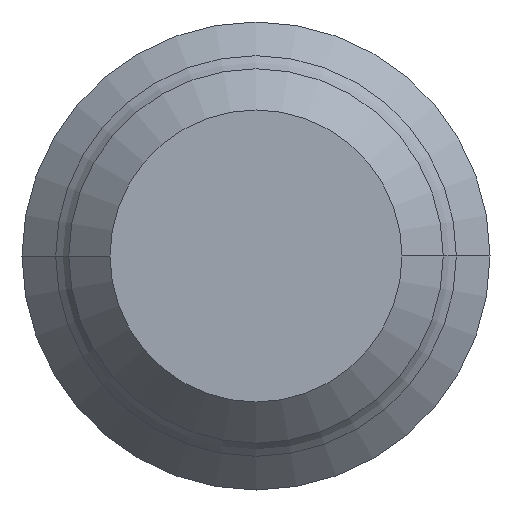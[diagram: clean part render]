
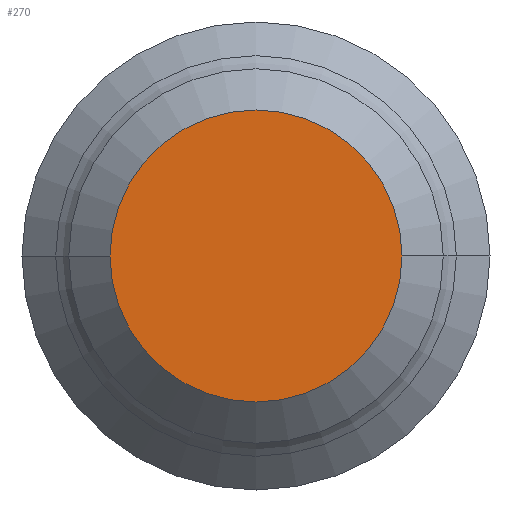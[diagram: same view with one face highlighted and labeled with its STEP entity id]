
A CAD part, left-side view. The second image highlights one B-rep face of the part: STEP entity #270.
In plain terms, the highlighted planar face has unit normal (-1, 0, 0).
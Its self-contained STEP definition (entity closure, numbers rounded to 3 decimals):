
#2 = CIRCLE ( 'NONE', #482, 4.953 ) ;
#3 = CARTESIAN_POINT ( 'NONE',  ( -45.263, 4.953, 0. ) ) ;
#10 = EDGE_CURVE ( 'NONE', #152, #380, #137, .T. ) ;
#137 = CIRCLE ( 'NONE', #542, 4.953 ) ;
#152 = VERTEX_POINT ( 'NONE', #267 ) ;
#197 = FACE_OUTER_BOUND ( 'NONE', #474, .T. ) ;
#222 = AXIS2_PLACEMENT_3D ( 'NONE', #554, #397, #428 ) ;
#267 = CARTESIAN_POINT ( 'NONE',  ( -45.263, -4.953, 0. ) ) ;
#270 = ADVANCED_FACE ( 'NONE', ( #197 ), #286, .F. ) ;
#286 = PLANE ( 'NONE',  #222 ) ;
#358 = ORIENTED_EDGE ( 'NONE', *, *, #515, .F. ) ;
#380 = VERTEX_POINT ( 'NONE', #3 ) ;
#382 = DIRECTION ( 'NONE',  ( 0., 1., 0. ) ) ;
#397 = DIRECTION ( 'NONE',  ( 1., 0., 0. ) ) ;
#411 = DIRECTION ( 'NONE',  ( 0., 1., 0. ) ) ;
#417 = DIRECTION ( 'NONE',  ( 1., 0., 0. ) ) ;
#428 = DIRECTION ( 'NONE',  ( 0., 1., 0. ) ) ;
#460 = CARTESIAN_POINT ( 'NONE',  ( -45.263, 0., 0. ) ) ;
#464 = CARTESIAN_POINT ( 'NONE',  ( -45.263, 0., 0. ) ) ;
#474 = EDGE_LOOP ( 'NONE', ( #358, #494 ) ) ;
#482 = AXIS2_PLACEMENT_3D ( 'NONE', #464, #537, #411 ) ;
#494 = ORIENTED_EDGE ( 'NONE', *, *, #10, .F. ) ;
#515 = EDGE_CURVE ( 'NONE', #380, #152, #2, .T. ) ;
#537 = DIRECTION ( 'NONE',  ( 1., 0., 0. ) ) ;
#542 = AXIS2_PLACEMENT_3D ( 'NONE', #460, #417, #382 ) ;
#554 = CARTESIAN_POINT ( 'NONE',  ( -45.263, 0., 0. ) ) ;
